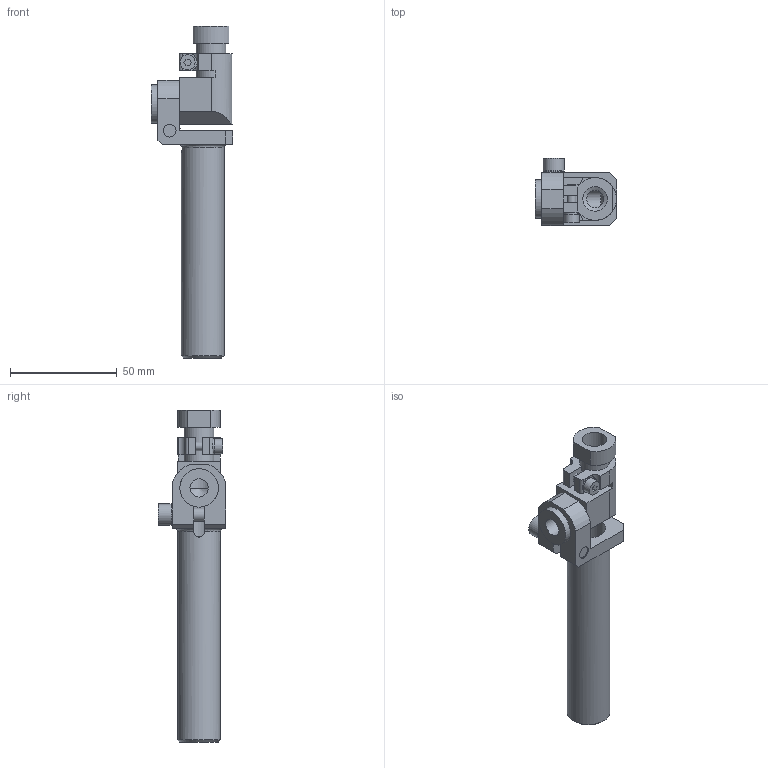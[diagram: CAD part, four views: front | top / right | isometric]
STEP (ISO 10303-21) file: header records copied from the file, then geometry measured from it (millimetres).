
FILE_DESCRIPTION (( 'STEP AP214' ), '1' );
FILE_NAME ('3369.STEP', '2024-06-12T14:03:26', ( '' ), ( '' ), 'SwSTEP 2.0', 'SolidWorks 2022', '' );
FILE_SCHEMA (( 'AUTOMOTIVE_DESIGN' ));
Length unit declared in the file: millimetre
Products named in the file (4): 3369-3370 Part C_3369 Part C; 3369; 3369-3370 Body_3369 Body; 3369-3370 Part B_3369 Part B
Assembly tree (3 placements, depth 2):
  3369
    3369-3370 Body_3369 Body
    3369-3370 Part B_3369 Part B
    3369-3370 Part C_3369 Part C
Bounding box: 38.1 x 31.66 x 155.5 mm (x, y, z)
Volume: 32662.4 mm3; surface area: 25881.1 mm2
Topology: 8 solids, 8 shells, 112 faces, 275 edges, 181 vertices
Faces by surface type: plane 70, cylinder 36, torus 3, cone 3
Full cylindrical faces by diameter (mm): 3.3 x1, 4 x1, 4.4 x1, 4.5 x1, 5 x1, 6 x2, 6.35 x1, 7 x2, 8 x1, 8.566 x1, 9.85 x1, 10 x1, 11.445 x1, 11.5 x1, 13.9 x2, 14 x1, 16 x1, 18 x2, 20 x1
Entity records: 3514 total; most frequent: CARTESIAN_POINT 710, DIRECTION 539, ORIENTED_EDGE 476, EDGE_CURVE 238, AXIS2_PLACEMENT_3D 193, VERTEX_POINT 172, EDGE_LOOP 160, LINE 153
